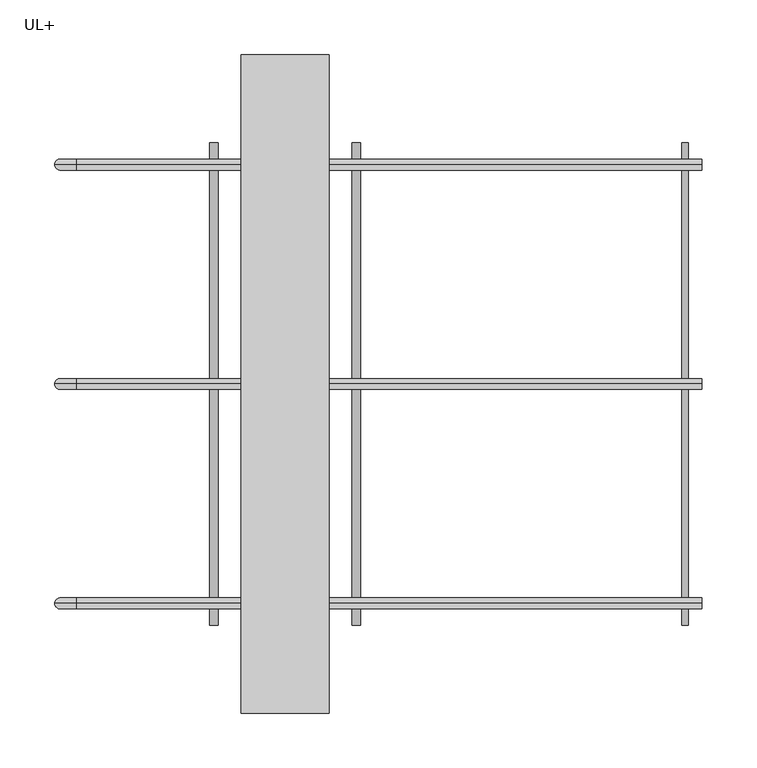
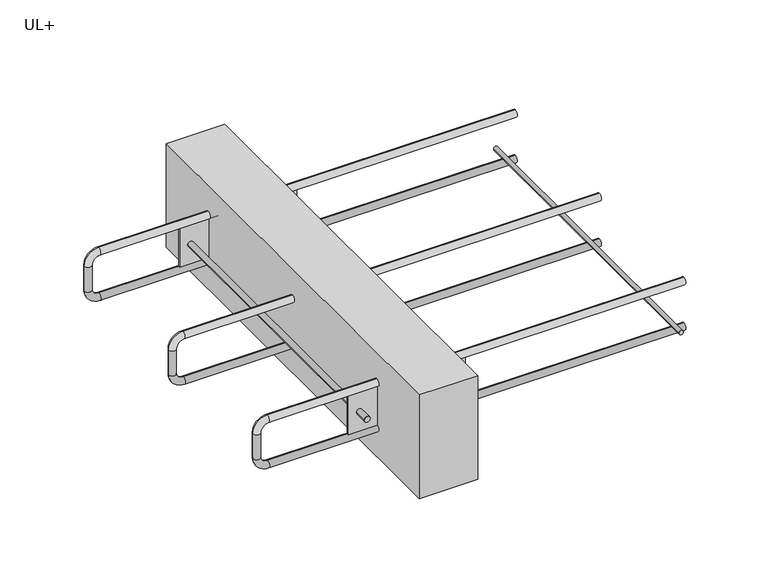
"""IFC4 building model written with IfcOpenShell, lengths in millimetres: fastener geometry, ACINOXplus_Typenreihe_UL-OL : UL+."""

from ifc_helpers import new_model, si_unit, point, frame, frame_2d, origin, place, context, project, spatial, polyline, circle_curve, ellipse_curve, trimmed, segment, composite_curve, outline, extrude, source, transform, mapped, element, save
from ifc_brep_helpers import plane_surface, cylinder_surface, revolved_surface, advanced_brep


def ul_60ffc345(model_context):
    return source(origin(), model_context, "Body", "SolidModel", [
        extrude(outline(composite_curve([segment(trimmed(circle_curve(frame_2d((-100.0, 365.0)), 3.0), [point((-100.0, 368.0))], [point((-100.0, 362.0))], False, "CARTESIAN"), True, "CONTINUOUS"), segment(trimmed(circle_curve(frame_2d((-100.0, 365.0)), 3.0), [point((-100.0, 362.0))], [point((-100.0, 368.0))], False, "CARTESIAN"), True, "CONTINUOUS")], self_intersect=False)), frame((0.0, -220.0, 0.0), z_axis=(0.0, 1.0, 0.0), x_axis=(0.0, 0.0, 1.0)), (0.0, 0.0, 1.0), 440.0),
        extrude(outline(polyline([(40.0, 300.0), (40.0, -300.0), (-40.0, -300.0), (-40.0, 300.0), (40.0, 300.0)])), frame((0.0, 0.0, -150.0), z_axis=(0.0, 0.0, 1.0), x_axis=(1.0, 0.0, 0.0)), (0.0, 0.0, 1.0), 150.0),
        extrude(outline(composite_curve([segment(trimmed(circle_curve(frame_2d((-75.0, -65.0)), 4.0), [point((-75.0, -61.0))], [point((-75.0, -69.0))], False, "CARTESIAN"), True, "CONTINUOUS"), segment(trimmed(circle_curve(frame_2d((-75.0, -65.0)), 4.0), [point((-75.0, -69.0))], [point((-75.0, -61.0))], False, "CARTESIAN"), True, "CONTINUOUS")], self_intersect=False)), frame((0.0, -220.0, 0.0), z_axis=(0.0, 1.0, 0.0), x_axis=(0.0, 0.0, 1.0)), (0.0, 0.0, 1.0), 440.0),
        extrude(outline(composite_curve([segment(trimmed(circle_curve(frame_2d((-75.0, 65.0)), 4.0), [point((-75.0, 69.0))], [point((-75.0, 61.0))], False, "CARTESIAN"), True, "CONTINUOUS"), segment(trimmed(circle_curve(frame_2d((-75.0, 65.0)), 4.0), [point((-75.0, 61.0))], [point((-75.0, 69.0))], False, "CARTESIAN"), True, "CONTINUOUS")], self_intersect=False)), frame((0.0, -220.0, 0.0), z_axis=(0.0, 1.0, 0.0), x_axis=(0.0, 0.0, 1.0)), (0.0, 0.0, 1.0), 440.0),
        extrude(outline(polyline([(80.0, -198.5), (80.0, -201.5), (-80.0, -201.5), (-80.0, -198.5), (80.0, -198.5)])), frame((0.0, 0.0, -103.0), z_axis=(0.0, 0.0, 1.0), x_axis=(1.0, 0.0, 0.0)), (0.0, 0.0, 1.0), 56.0),
        extrude(outline(polyline([(80.0, 201.5), (80.0, 198.5), (-80.0, 198.5), (-80.0, 201.5), (80.0, 201.5)])), frame((0.0, 0.0, -103.0), z_axis=(0.0, 0.0, 1.0), x_axis=(1.0, 0.0, 0.0)), (0.0, 0.0, 1.0), 56.0),
        advanced_brep(
        [(380.0, 0.0, -37.0), (380.0, 0.0, -47.0), (-190.0, 0.0, -37.0), (-190.0, 0.0, -47.0), (-200.0, 0.0, -57.0), (-210.0, 0.0, -57.0), (-210.0, 0.0, -93.0), (-200.0, 0.0, -93.0), (-190.0, 0.0, -103.0), (-190.0, 0.0, -113.0), (380.0, 0.0, -113.0), (380.0, 0.0, -103.0)],
        [
            (0, 1, circle_curve(frame((380.0, 0.0, -42.0), z_axis=(1.0, 0.0, 0.0), x_axis=(0.0, 0.0, -1.0)), 5.0)),
            (1, 0, circle_curve(frame((380.0, 0.0, -42.0), z_axis=(1.0, 0.0, 0.0), x_axis=(0.0, 0.0, -1.0)), 5.0)),
            (0, 2),
            (2, 3, circle_curve(frame((-190.0, 0.0, -42.0), z_axis=(1.0, 0.0, 0.0), x_axis=(0.0, 0.0, -1.0)), 5.0)),
            (3, 1),
            (3, 2, circle_curve(frame((-190.0, 0.0, -42.0), z_axis=(1.0, 0.0, 0.0), x_axis=(0.0, 0.0, -1.0)), 5.0)),
            (4, 3, circle_curve(frame((-190.0, 0.0, -57.0), z_axis=(0.0, 1.0, 0.0), x_axis=(0.0, 0.0, 1.0)), 10.0)),
            (2, 5, circle_curve(frame((-190.0, 0.0, -57.0), z_axis=(0.0, -1.0, 0.0), x_axis=(0.0, 0.0, 1.0)), 20.0)),
            (5, 4, circle_curve(frame((-205.0, 0.0, -57.0), z_axis=(0.0, 0.0, 1.0), x_axis=(1.0, 0.0, 0.0)), 5.0)),
            (4, 5, circle_curve(frame((-205.0, 0.0, -57.0), z_axis=(0.0, 0.0, 1.0), x_axis=(1.0, 0.0, 0.0)), 5.0)),
            (5, 6),
            (6, 7, circle_curve(frame((-205.0, 0.0, -93.0), z_axis=(0.0, 0.0, 1.0), x_axis=(1.0, 0.0, 0.0)), 5.0)),
            (7, 4),
            (7, 6, circle_curve(frame((-205.0, 0.0, -93.0), z_axis=(0.0, 0.0, 1.0), x_axis=(1.0, 0.0, 0.0)), 5.0)),
            (8, 7, circle_curve(frame((-190.0, 0.0, -93.0), z_axis=(0.0, 1.0, 0.0), x_axis=(-1.0, 0.0, 0.0)), 10.0)),
            (6, 9, circle_curve(frame((-190.0, 0.0, -93.0), z_axis=(0.0, -1.0, 0.0), x_axis=(-1.0, 0.0, 0.0)), 20.0)),
            (9, 8, circle_curve(frame((-190.0, 0.0, -108.0), z_axis=(-1.0, 0.0, 0.0), x_axis=(0.0, 0.0, 1.0)), 5.0)),
            (8, 9, circle_curve(frame((-190.0, 0.0, -108.0), z_axis=(-1.0, 0.0, 0.0), x_axis=(0.0, 0.0, 1.0)), 5.0)),
            (10, 11, circle_curve(frame((380.0, 0.0, -108.0), z_axis=(1.0, 0.0, 0.0), x_axis=(0.0, 0.0, 1.0)), 5.0)),
            (11, 10, circle_curve(frame((380.0, 0.0, -108.0), z_axis=(1.0, 0.0, 0.0), x_axis=(0.0, 0.0, 1.0)), 5.0)),
            (9, 10),
            (11, 8),
        ],
        [
            plane_surface(frame((380.0, 0.0, -42.0), z_axis=(1.0, 0.0, 0.0), x_axis=(0.0, -1.0, 0.0))),
            cylinder_surface(frame((380.0, 0.0, -42.0), z_axis=(1.0, 0.0, 0.0), x_axis=(0.0, 0.0, -1.0)), 5.0),
            revolved_surface(trimmed(ellipse_curve(frame((-190.0, 0.0, -42.0), z_axis=(1.0, 0.0, 0.0), x_axis=(0.0, 0.0, -1.0)), 5.0, 5.0), [point((-190.0, 0.0, -37.0))], [point((-190.0, 0.0, -47.0))], True, "CARTESIAN"), (-190.0, 0.0, -57.0), (0.0, -1.0, 0.0)),
            revolved_surface(trimmed(ellipse_curve(frame((-190.0, 0.0, -42.0), z_axis=(1.0, 0.0, 0.0), x_axis=(0.0, 0.0, -1.0)), 5.0, 5.0), [point((-190.0, 0.0, -47.0))], [point((-190.0, 0.0, -37.0))], True, "CARTESIAN"), (-190.0, 0.0, -57.0), (0.0, -1.0, 0.0)),
            cylinder_surface(frame((-205.0, 0.0, -57.0), z_axis=(0.0, 0.0, 1.0), x_axis=(1.0, 0.0, 0.0)), 5.0),
            revolved_surface(trimmed(ellipse_curve(frame((-205.0, 0.0, -93.0), z_axis=(0.0, 0.0, 1.0), x_axis=(1.0, 0.0, 0.0)), 5.0, 5.0), [point((-210.0, 0.0, -93.0))], [point((-200.0, 0.0, -93.0))], True, "CARTESIAN"), (-190.0, 0.0, -93.0), (0.0, -1.0, 0.0)),
            revolved_surface(trimmed(ellipse_curve(frame((-205.0, 0.0, -93.0), z_axis=(0.0, 0.0, 1.0), x_axis=(1.0, 0.0, 0.0)), 5.0, 5.0), [point((-200.0, 0.0, -93.0))], [point((-210.0, 0.0, -93.0))], True, "CARTESIAN"), (-190.0, 0.0, -93.0), (0.0, -1.0, 0.0)),
            plane_surface(frame((380.0, 0.0, -108.0), z_axis=(1.0, 0.0, 0.0), x_axis=(0.0, -1.0, 0.0))),
            cylinder_surface(frame((-190.0, 0.0, -108.0), z_axis=(-1.0, 0.0, 0.0), x_axis=(0.0, 0.0, 1.0)), 5.0),
        ],
        [
            (0, [[1, 2]]),
            (1, [[-1, 3, 4, 5]]),
            (1, [[-2, -5, 6, -3]]),
            (2, [[7, -4, 8, 9]]),
            (3, [[-8, -6, -7, 10]]),
            (4, [[-9, 11, 12, 13]]),
            (4, [[-10, -13, 14, -11]]),
            (5, [[15, -12, 16, 17]]),
            (6, [[-16, -14, -15, 18]]),
            (7, [[19, 20]]),
            (8, [[-17, 21, -20, 22]]),
            (8, [[-18, -22, -19, -21]]),
        ],
    ),
        advanced_brep(
        [(380.0, 200.0, -37.0), (380.0, 200.0, -47.0), (-190.0, 200.0, -37.0), (-190.0, 200.0, -47.0), (-200.0, 200.0, -57.0), (-210.0, 200.0, -57.0), (-210.0, 200.0, -93.0), (-200.0, 200.0, -93.0), (-190.0, 200.0, -103.0), (-190.0, 200.0, -113.0), (380.0, 200.0, -113.0), (380.0, 200.0, -103.0)],
        [
            (0, 1, circle_curve(frame((380.0, 200.0, -42.0), z_axis=(1.0, 0.0, 0.0), x_axis=(0.0, 0.0, -1.0)), 5.0)),
            (1, 0, circle_curve(frame((380.0, 200.0, -42.0), z_axis=(1.0, 0.0, 0.0), x_axis=(0.0, 0.0, -1.0)), 5.0)),
            (0, 2),
            (2, 3, circle_curve(frame((-190.0, 200.0, -42.0), z_axis=(1.0, 0.0, 0.0), x_axis=(0.0, 0.0, -1.0)), 5.0)),
            (3, 1),
            (3, 2, circle_curve(frame((-190.0, 200.0, -42.0), z_axis=(1.0, 0.0, 0.0), x_axis=(0.0, 0.0, -1.0)), 5.0)),
            (4, 3, circle_curve(frame((-190.0, 200.0, -57.0), z_axis=(0.0, 1.0, 0.0), x_axis=(0.0, 0.0, 1.0)), 10.0)),
            (2, 5, circle_curve(frame((-190.0, 200.0, -57.0), z_axis=(0.0, -1.0, 0.0), x_axis=(0.0, 0.0, 1.0)), 20.0)),
            (5, 4, circle_curve(frame((-205.0, 200.0, -57.0), z_axis=(0.0, 0.0, 1.0), x_axis=(1.0, 0.0, 0.0)), 5.0)),
            (4, 5, circle_curve(frame((-205.0, 200.0, -57.0), z_axis=(0.0, 0.0, 1.0), x_axis=(1.0, 0.0, 0.0)), 5.0)),
            (5, 6),
            (6, 7, circle_curve(frame((-205.0, 200.0, -93.0), z_axis=(0.0, 0.0, 1.0), x_axis=(1.0, 0.0, 0.0)), 5.0)),
            (7, 4),
            (7, 6, circle_curve(frame((-205.0, 200.0, -93.0), z_axis=(0.0, 0.0, 1.0), x_axis=(1.0, 0.0, 0.0)), 5.0)),
            (8, 7, circle_curve(frame((-190.0, 200.0, -93.0), z_axis=(0.0, 1.0, 0.0), x_axis=(-1.0, 0.0, 0.0)), 10.0)),
            (6, 9, circle_curve(frame((-190.0, 200.0, -93.0), z_axis=(0.0, -1.0, 0.0), x_axis=(-1.0, 0.0, 0.0)), 20.0)),
            (9, 8, circle_curve(frame((-190.0, 200.0, -108.0), z_axis=(-1.0, 0.0, 0.0), x_axis=(0.0, 0.0, 1.0)), 5.0)),
            (8, 9, circle_curve(frame((-190.0, 200.0, -108.0), z_axis=(-1.0, 0.0, 0.0), x_axis=(0.0, 0.0, 1.0)), 5.0)),
            (10, 11, circle_curve(frame((380.0, 200.0, -108.0), z_axis=(1.0, 0.0, 0.0), x_axis=(0.0, 0.0, 1.0)), 5.0)),
            (11, 10, circle_curve(frame((380.0, 200.0, -108.0), z_axis=(1.0, 0.0, 0.0), x_axis=(0.0, 0.0, 1.0)), 5.0)),
            (9, 10),
            (11, 8),
        ],
        [
            plane_surface(frame((380.0, 200.0, -42.0), z_axis=(1.0, 0.0, 0.0), x_axis=(0.0, -1.0, 0.0))),
            cylinder_surface(frame((380.0, 200.0, -42.0), z_axis=(1.0, 0.0, 0.0), x_axis=(0.0, 0.0, -1.0)), 5.0),
            revolved_surface(trimmed(ellipse_curve(frame((-190.0, 200.0, -42.0), z_axis=(1.0, 0.0, 0.0), x_axis=(0.0, 0.0, -1.0)), 5.0, 5.0), [point((-190.0, 200.0, -37.0))], [point((-190.0, 200.0, -47.0))], True, "CARTESIAN"), (-190.0, 200.0, -57.0), (0.0, -1.0, 0.0)),
            revolved_surface(trimmed(ellipse_curve(frame((-190.0, 200.0, -42.0), z_axis=(1.0, 0.0, 0.0), x_axis=(0.0, 0.0, -1.0)), 5.0, 5.0), [point((-190.0, 200.0, -47.0))], [point((-190.0, 200.0, -37.0))], True, "CARTESIAN"), (-190.0, 200.0, -57.0), (0.0, -1.0, 0.0)),
            cylinder_surface(frame((-205.0, 200.0, -57.0), z_axis=(0.0, 0.0, 1.0), x_axis=(1.0, 0.0, 0.0)), 5.0),
            revolved_surface(trimmed(ellipse_curve(frame((-205.0, 200.0, -93.0), z_axis=(0.0, 0.0, 1.0), x_axis=(1.0, 0.0, 0.0)), 5.0, 5.0), [point((-210.0, 200.0, -93.0))], [point((-200.0, 200.0, -93.0))], True, "CARTESIAN"), (-190.0, 200.0, -93.0), (0.0, -1.0, 0.0)),
            revolved_surface(trimmed(ellipse_curve(frame((-205.0, 200.0, -93.0), z_axis=(0.0, 0.0, 1.0), x_axis=(1.0, 0.0, 0.0)), 5.0, 5.0), [point((-200.0, 200.0, -93.0))], [point((-210.0, 200.0, -93.0))], True, "CARTESIAN"), (-190.0, 200.0, -93.0), (0.0, -1.0, 0.0)),
            plane_surface(frame((380.0, 200.0, -108.0), z_axis=(1.0, 0.0, 0.0), x_axis=(0.0, -1.0, 0.0))),
            cylinder_surface(frame((-190.0, 200.0, -108.0), z_axis=(-1.0, 0.0, 0.0), x_axis=(0.0, 0.0, 1.0)), 5.0),
        ],
        [
            (0, [[1, 2]]),
            (1, [[-1, 3, 4, 5]]),
            (1, [[-2, -5, 6, -3]]),
            (2, [[7, -4, 8, 9]]),
            (3, [[-8, -6, -7, 10]]),
            (4, [[-9, 11, 12, 13]]),
            (4, [[-10, -13, 14, -11]]),
            (5, [[15, -12, 16, 17]]),
            (6, [[-16, -14, -15, 18]]),
            (7, [[19, 20]]),
            (8, [[-17, 21, -20, 22]]),
            (8, [[-18, -22, -19, -21]]),
        ],
    ),
        advanced_brep(
        [(380.0, -200.0, -37.0), (380.0, -200.0, -47.0), (-190.0, -200.0, -37.0), (-190.0, -200.0, -47.0), (-200.0, -200.0, -57.0), (-210.0, -200.0, -57.0), (-210.0, -200.0, -93.0), (-200.0, -200.0, -93.0), (-190.0, -200.0, -103.0), (-190.0, -200.0, -113.0), (380.0, -200.0, -113.0), (380.0, -200.0, -103.0)],
        [
            (0, 1, circle_curve(frame((380.0, -200.0, -42.0), z_axis=(1.0, 0.0, 0.0), x_axis=(0.0, 0.0, -1.0)), 5.0)),
            (1, 0, circle_curve(frame((380.0, -200.0, -42.0), z_axis=(1.0, 0.0, 0.0), x_axis=(0.0, 0.0, -1.0)), 5.0)),
            (0, 2),
            (2, 3, circle_curve(frame((-190.0, -200.0, -42.0), z_axis=(1.0, 0.0, 0.0), x_axis=(0.0, 0.0, -1.0)), 5.0)),
            (3, 1),
            (3, 2, circle_curve(frame((-190.0, -200.0, -42.0), z_axis=(1.0, 0.0, 0.0), x_axis=(0.0, 0.0, -1.0)), 5.0)),
            (4, 3, circle_curve(frame((-190.0, -200.0, -57.0), z_axis=(0.0, 1.0, 0.0), x_axis=(0.0, 0.0, 1.0)), 10.0)),
            (2, 5, circle_curve(frame((-190.0, -200.0, -57.0), z_axis=(0.0, -1.0, 0.0), x_axis=(0.0, 0.0, 1.0)), 20.0)),
            (5, 4, circle_curve(frame((-205.0, -200.0, -57.0), z_axis=(0.0, 0.0, 1.0), x_axis=(1.0, 0.0, 0.0)), 5.0)),
            (4, 5, circle_curve(frame((-205.0, -200.0, -57.0), z_axis=(0.0, 0.0, 1.0), x_axis=(1.0, 0.0, 0.0)), 5.0)),
            (5, 6),
            (6, 7, circle_curve(frame((-205.0, -200.0, -93.0), z_axis=(0.0, 0.0, 1.0), x_axis=(1.0, 0.0, 0.0)), 5.0)),
            (7, 4),
            (7, 6, circle_curve(frame((-205.0, -200.0, -93.0), z_axis=(0.0, 0.0, 1.0), x_axis=(1.0, 0.0, 0.0)), 5.0)),
            (8, 7, circle_curve(frame((-190.0, -200.0, -93.0), z_axis=(0.0, 1.0, 0.0), x_axis=(-1.0, 0.0, 0.0)), 10.0)),
            (6, 9, circle_curve(frame((-190.0, -200.0, -93.0), z_axis=(0.0, -1.0, 0.0), x_axis=(-1.0, 0.0, 0.0)), 20.0)),
            (9, 8, circle_curve(frame((-190.0, -200.0, -108.0), z_axis=(-1.0, 0.0, 0.0), x_axis=(0.0, 0.0, 1.0)), 5.0)),
            (8, 9, circle_curve(frame((-190.0, -200.0, -108.0), z_axis=(-1.0, 0.0, 0.0), x_axis=(0.0, 0.0, 1.0)), 5.0)),
            (10, 11, circle_curve(frame((380.0, -200.0, -108.0), z_axis=(1.0, 0.0, 0.0), x_axis=(0.0, 0.0, 1.0)), 5.0)),
            (11, 10, circle_curve(frame((380.0, -200.0, -108.0), z_axis=(1.0, 0.0, 0.0), x_axis=(0.0, 0.0, 1.0)), 5.0)),
            (9, 10),
            (11, 8),
        ],
        [
            plane_surface(frame((380.0, -200.0, -42.0), z_axis=(1.0, 0.0, 0.0), x_axis=(0.0, -1.0, 0.0))),
            cylinder_surface(frame((380.0, -200.0, -42.0), z_axis=(1.0, 0.0, 0.0), x_axis=(0.0, 0.0, -1.0)), 5.0),
            revolved_surface(trimmed(ellipse_curve(frame((-190.0, -200.0, -42.0), z_axis=(1.0, 0.0, 0.0), x_axis=(0.0, 0.0, -1.0)), 5.0, 5.0), [point((-190.0, -200.0, -37.0))], [point((-190.0, -200.0, -47.0))], True, "CARTESIAN"), (-190.0, -200.0, -57.0), (0.0, -1.0, 0.0)),
            revolved_surface(trimmed(ellipse_curve(frame((-190.0, -200.0, -42.0), z_axis=(1.0, 0.0, 0.0), x_axis=(0.0, 0.0, -1.0)), 5.0, 5.0), [point((-190.0, -200.0, -47.0))], [point((-190.0, -200.0, -37.0))], True, "CARTESIAN"), (-190.0, -200.0, -57.0), (0.0, -1.0, 0.0)),
            cylinder_surface(frame((-205.0, -200.0, -57.0), z_axis=(0.0, 0.0, 1.0), x_axis=(1.0, 0.0, 0.0)), 5.0),
            revolved_surface(trimmed(ellipse_curve(frame((-205.0, -200.0, -93.0), z_axis=(0.0, 0.0, 1.0), x_axis=(1.0, 0.0, 0.0)), 5.0, 5.0), [point((-210.0, -200.0, -93.0))], [point((-200.0, -200.0, -93.0))], True, "CARTESIAN"), (-190.0, -200.0, -93.0), (0.0, -1.0, 0.0)),
            revolved_surface(trimmed(ellipse_curve(frame((-205.0, -200.0, -93.0), z_axis=(0.0, 0.0, 1.0), x_axis=(1.0, 0.0, 0.0)), 5.0, 5.0), [point((-200.0, -200.0, -93.0))], [point((-210.0, -200.0, -93.0))], True, "CARTESIAN"), (-190.0, -200.0, -93.0), (0.0, -1.0, 0.0)),
            plane_surface(frame((380.0, -200.0, -108.0), z_axis=(1.0, 0.0, 0.0), x_axis=(0.0, -1.0, 0.0))),
            cylinder_surface(frame((-190.0, -200.0, -108.0), z_axis=(-1.0, 0.0, 0.0), x_axis=(0.0, 0.0, 1.0)), 5.0),
        ],
        [
            (0, [[1, 2]]),
            (1, [[-1, 3, 4, 5]]),
            (1, [[-2, -5, 6, -3]]),
            (2, [[7, -4, 8, 9]]),
            (3, [[-8, -6, -7, 10]]),
            (4, [[-9, 11, 12, 13]]),
            (4, [[-10, -13, 14, -11]]),
            (5, [[15, -12, 16, 17]]),
            (6, [[-16, -14, -15, 18]]),
            (7, [[19, 20]]),
            (8, [[-17, 21, -20, 22]]),
            (8, [[-18, -22, -19, -21]]),
        ],
    ),
    ])


if __name__ == "__main__":
    model = new_model("IFC4")
    model_context = context("Model", 3, world=origin())
    ifc_project = project(units=[si_unit("LENGTHUNIT", "METRE", prefix="MILLI")], contexts=[model_context])
    site = spatial("IfcSite", under=ifc_project)
    building = spatial("IfcBuilding", under=site)
    placement = place(None, origin())
    ul_shape = ul_60ffc345(model_context)
    element("IfcFastener", 1, ObjectType="ACINOXplus_Typenreihe_UL-OL : UL+", at=placement, inside=building, context=model_context, shape_type="MappedRepresentation", body=[
        mapped(ul_shape, transform((0.0, 0.0, 0.0), x_axis=(1.0, 0.0, 0.0), y_axis=(0.0, 1.0, 0.0), z_axis=(0.0, 0.0, 1.0))),
    ])
    save(model, "model.ifc")
